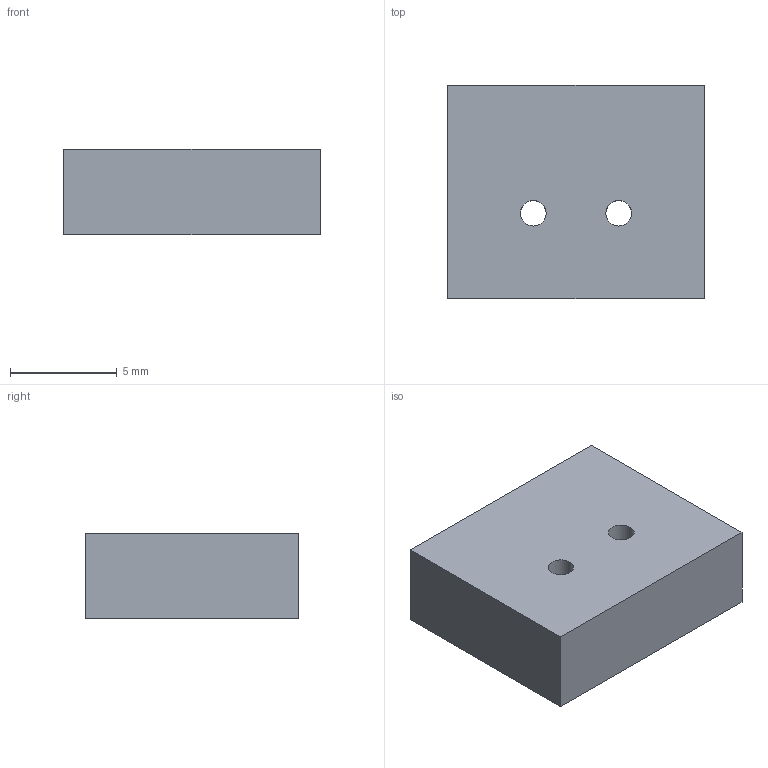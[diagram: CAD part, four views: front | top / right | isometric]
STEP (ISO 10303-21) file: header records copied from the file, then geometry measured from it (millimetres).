
FILE_DESCRIPTION(('Open CASCADE Model'),'2;1');
FILE_NAME('Open CASCADE Shape Model','2000-01-01T00:00:00',('Author'),( 'Open CASCADE'),'Open CASCADE STEP processor 7.9','Open CASCADE 7.9' ,'Unknown');
FILE_SCHEMA(('AUTOMOTIVE_DESIGN { 1 0 10303 214 1 1 1 1 }'));
Length unit declared in the file: millimetre
Products named in the file (1): Open CASCADE STEP translator 7.9 1
Bounding box: 12 x 10 x 4 mm (x, y, z)
Volume: 471 mm3; surface area: 441.6 mm2
Topology: 1 solids, 1 shells, 8 faces, 18 edges, 12 vertices
Faces by surface type: plane 6, cylinder 2
Full cylindrical faces by diameter (mm): 1.2 x2
Entity records: 478 total; most frequent: DIRECTION 76, CARTESIAN_POINT 75, LINE 46, VECTOR 46, ORIENTED_EDGE 36, PCURVE 36, DEFINITIONAL_REPRESENTATION 36, EDGE_CURVE 18
